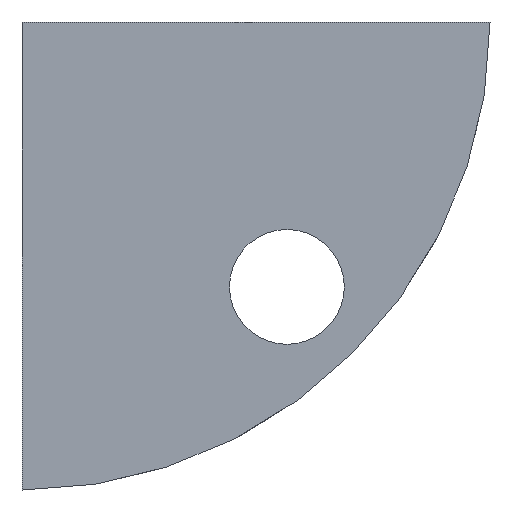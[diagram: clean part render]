
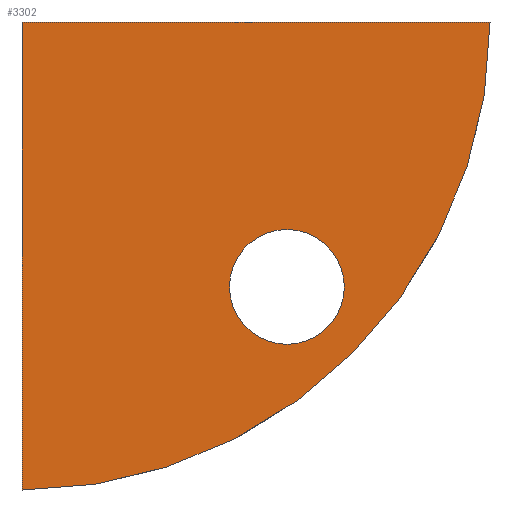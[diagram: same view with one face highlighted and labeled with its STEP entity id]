
A CAD part, front view. The second image highlights one B-rep face of the part: STEP entity #3302.
In plain terms, the highlighted planar face has unit normal (0, -1, 0).
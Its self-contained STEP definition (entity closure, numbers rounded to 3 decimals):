
#45 = PLANE ( 'NONE',  #2674 ) ;
#213 = ORIENTED_EDGE ( 'NONE', *, *, #3175, .F. ) ;
#363 = VERTEX_POINT ( 'NONE', #3476 ) ;
#426 = AXIS2_PLACEMENT_3D ( 'NONE', #3028, #915, #1000 ) ;
#469 = VERTEX_POINT ( 'NONE', #2646 ) ;
#499 = VERTEX_POINT ( 'NONE', #3351 ) ;
#507 = LINE ( 'NONE', #1931, #2452 ) ;
#541 = VERTEX_POINT ( 'NONE', #3399 ) ;
#612 = VERTEX_POINT ( 'NONE', #1995 ) ;
#691 = EDGE_CURVE ( 'NONE', #499, #541, #1455, .T. ) ;
#858 = DIRECTION ( 'NONE',  ( 0., -1., 0. ) ) ;
#915 = DIRECTION ( 'NONE',  ( 0., 1., 0. ) ) ;
#1000 = DIRECTION ( 'NONE',  ( 0., 0., -1. ) ) ;
#1407 = ORIENTED_EDGE ( 'NONE', *, *, #691, .F. ) ;
#1444 = CIRCLE ( 'NONE', #3237, 3.25 ) ;
#1455 = LINE ( 'NONE', #2502, #4537 ) ;
#1471 = CIRCLE ( 'NONE', #3948, 3.25 ) ;
#1473 = ORIENTED_EDGE ( 'NONE', *, *, #2606, .F. ) ;
#1738 = DIRECTION ( 'NONE',  ( 1., 0., 0. ) ) ;
#1770 = ORIENTED_EDGE ( 'NONE', *, *, #1965, .F. ) ;
#1813 = FACE_BOUND ( 'NONE', #2952, .T. ) ;
#1931 = CARTESIAN_POINT ( 'NONE',  ( 0., 0., -3. ) ) ;
#1965 = EDGE_CURVE ( 'NONE', #541, #612, #3331, .T. ) ;
#1995 = CARTESIAN_POINT ( 'NONE',  ( 0., 0., -26.5 ) ) ;
#2277 = DIRECTION ( 'NONE',  ( 0., 0., -1. ) ) ;
#2452 = VECTOR ( 'NONE', #3361, 1000. ) ;
#2498 = ORIENTED_EDGE ( 'NONE', *, *, #4296, .F. ) ;
#2502 = CARTESIAN_POINT ( 'NONE',  ( 0., 0., 0. ) ) ;
#2525 = DIRECTION ( 'NONE',  ( 0., -1., 0. ) ) ;
#2606 = EDGE_CURVE ( 'NONE', #469, #363, #1444, .T. ) ;
#2615 = DIRECTION ( 'NONE',  ( 0., 0., -1. ) ) ;
#2646 = CARTESIAN_POINT ( 'NONE',  ( 15., 0., -11.75 ) ) ;
#2674 = AXIS2_PLACEMENT_3D ( 'NONE', #3835, #3148, #4585 ) ;
#2952 = EDGE_LOOP ( 'NONE', ( #2498, #1473 ) ) ;
#3028 = CARTESIAN_POINT ( 'NONE',  ( 0., 0., 0. ) ) ;
#3148 = DIRECTION ( 'NONE',  ( 0., -1., 0. ) ) ;
#3175 = EDGE_CURVE ( 'NONE', #612, #499, #507, .T. ) ;
#3237 = AXIS2_PLACEMENT_3D ( 'NONE', #3982, #2525, #2615 ) ;
#3302 = ADVANCED_FACE ( 'NONE', ( #4324, #1813 ), #45, .T. ) ;
#3331 = CIRCLE ( 'NONE', #426, 26.5 ) ;
#3351 = CARTESIAN_POINT ( 'NONE',  ( 0., 0., 0. ) ) ;
#3361 = DIRECTION ( 'NONE',  ( 0., 0., 1. ) ) ;
#3399 = CARTESIAN_POINT ( 'NONE',  ( 26.5, 0., 0. ) ) ;
#3476 = CARTESIAN_POINT ( 'NONE',  ( 15., 0., -18.25 ) ) ;
#3835 = CARTESIAN_POINT ( 'NONE',  ( 0., 0., -3. ) ) ;
#3926 = EDGE_LOOP ( 'NONE', ( #1770, #1407, #213 ) ) ;
#3948 = AXIS2_PLACEMENT_3D ( 'NONE', #4061, #858, #2277 ) ;
#3982 = CARTESIAN_POINT ( 'NONE',  ( 15., 0., -15. ) ) ;
#4061 = CARTESIAN_POINT ( 'NONE',  ( 15., 0., -15. ) ) ;
#4296 = EDGE_CURVE ( 'NONE', #363, #469, #1471, .T. ) ;
#4324 = FACE_OUTER_BOUND ( 'NONE', #3926, .T. ) ;
#4537 = VECTOR ( 'NONE', #1738, 1000. ) ;
#4585 = DIRECTION ( 'NONE',  ( 0., 0., -1. ) ) ;
